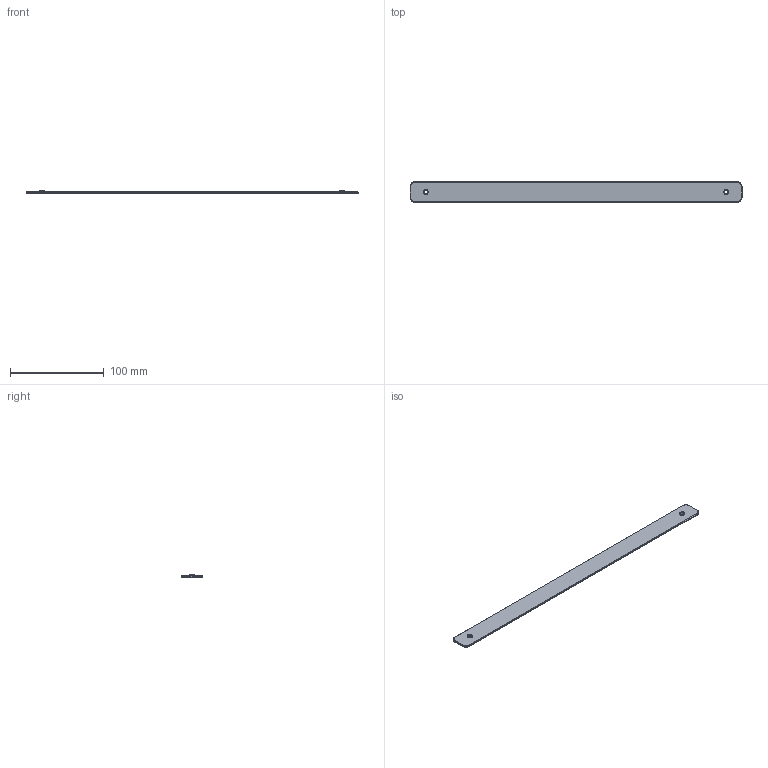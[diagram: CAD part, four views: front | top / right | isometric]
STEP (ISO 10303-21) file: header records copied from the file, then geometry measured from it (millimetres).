
FILE_DESCRIPTION(('Open CASCADE Model'),'2;1');
FILE_NAME('W-BAR-WL320-22','2026-10-19T21:23:53',('Author'),( 'Open CASCADE'),'Open CASCADE STEP processor 8.0','build123d', 'Unknown');
FILE_SCHEMA(('AUTOMOTIVE_DESIGN { 1 0 10303 214 1 1 1 1 }'));
Length unit declared in the file: millimetre
Products named in the file (2): W-BAR-WL320-22; brass_WL320-22__w
Assembly tree (1 placements, depth 2):
  W-BAR-WL320-22
    brass_WL320-22__w
Bounding box: 354 x 22 x 2.79 mm (x, y, z)
Volume: 13836.7 mm3; surface area: 16598.7 mm2
Topology: 1 solids, 1 shells, 32 faces, 68 edges, 40 vertices
Faces by surface type: plane 12, cylinder 12, cone 4, torus 4
Full cylindrical faces by diameter (mm): 4.3 x2, 5 x2
Entity records: 1768 total; most frequent: CARTESIAN_POINT 358, DIRECTION 264, ORIENTED_EDGE 136, PCURVE 136, DEFINITIONAL_REPRESENTATION 136, LINE 124, VECTOR 124, EDGE_CURVE 68
